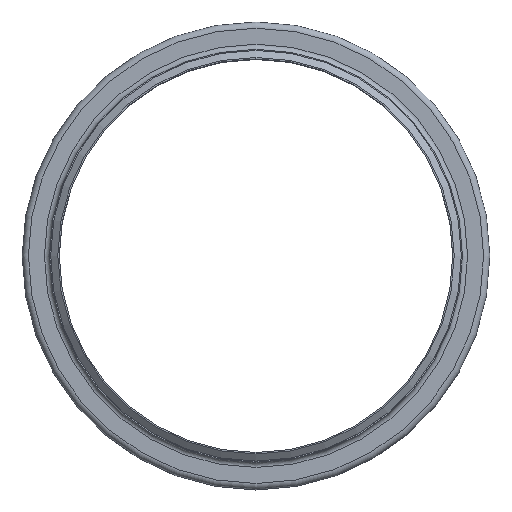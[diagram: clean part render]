
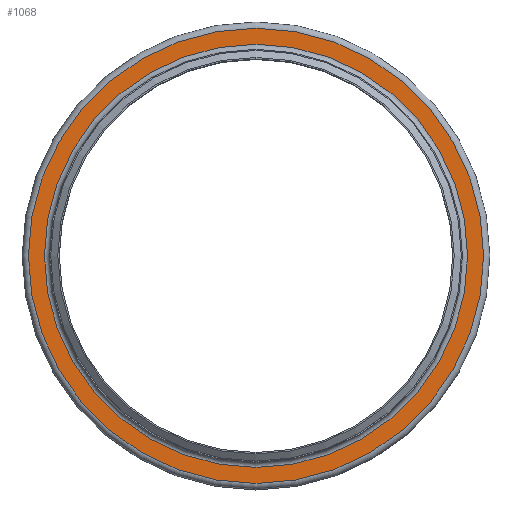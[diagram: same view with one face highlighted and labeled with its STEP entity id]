
A CAD part, top view. The second image highlights one B-rep face of the part: STEP entity #1068.
In plain terms, the highlighted planar face has unit normal (0, 0, 1).
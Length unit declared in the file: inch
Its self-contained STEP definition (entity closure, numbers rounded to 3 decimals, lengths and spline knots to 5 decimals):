
#102=FACE_BOUND('',#282,.T.);
#171=FACE_OUTER_BOUND('',#281,.T.);
#281=EDGE_LOOP('',(#824));
#282=EDGE_LOOP('',(#825));
#402=CIRCLE('',#1264,9.274);
#403=CIRCLE('',#1266,9.976);
#491=VERTEX_POINT('',#1935);
#492=VERTEX_POINT('',#1939);
#606=EDGE_CURVE('',#491,#491,#402,.T.);
#607=EDGE_CURVE('',#492,#492,#403,.T.);
#824=ORIENTED_EDGE('',*,*,#607,.F.);
#825=ORIENTED_EDGE('',*,*,#606,.T.);
#918=PLANE('',#1265);
#1068=ADVANCED_FACE('',(#171,#102),#918,.T.);
#1264=AXIS2_PLACEMENT_3D('',#1937,#1621,#1622);
#1265=AXIS2_PLACEMENT_3D('',#1938,#1623,#1624);
#1266=AXIS2_PLACEMENT_3D('',#1940,#1625,#1626);
#1621=DIRECTION('center_axis',(0.,0.,
-1.));
#1622=DIRECTION('ref_axis',(1.,0.,0.));
#1623=DIRECTION('center_axis',(0.,0.,
1.));
#1624=DIRECTION('ref_axis',(1.,0.,0.));
#1625=DIRECTION('center_axis',(0.,0.,
-1.));
#1626=DIRECTION('ref_axis',(1.,0.,0.));
#1935=CARTESIAN_POINT('',(9.274,0.,-1.726));
#1937=CARTESIAN_POINT('Origin',(0.,0.,
-1.726));
#1938=CARTESIAN_POINT('Origin',(0.,9.976,-1.726));
#1939=CARTESIAN_POINT('',(9.976,0.,-1.726));
#1940=CARTESIAN_POINT('Origin',(0.,0.,
-1.726));
